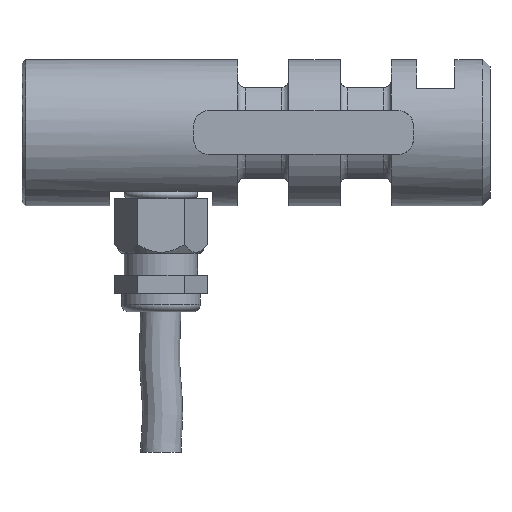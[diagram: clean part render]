
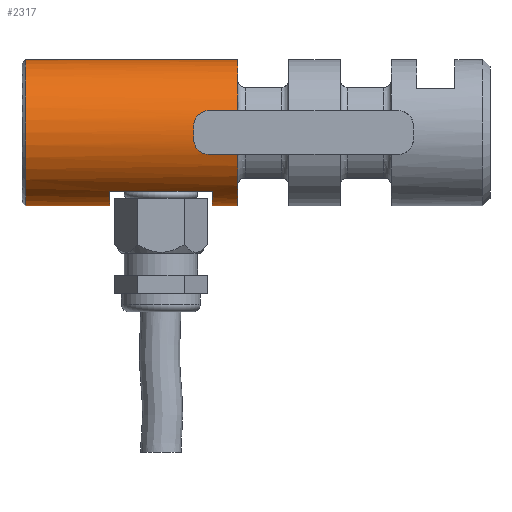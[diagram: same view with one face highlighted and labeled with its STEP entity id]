
A CAD part, top view. The second image highlights one B-rep face of the part: STEP entity #2317.
In plain terms, the highlighted cylindrical face has radius 10 mm (diameter 20 mm), a full revolution.
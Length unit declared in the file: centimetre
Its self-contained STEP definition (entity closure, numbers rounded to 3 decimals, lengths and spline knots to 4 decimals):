
#693=B_SPLINE_CURVE_WITH_KNOTS('',3,(#2664,#2665,#2666,#2667,#2668,#2669,
#2670,#2671,#2672,#2673,#2674,#2675,#2676,#2677),.UNSPECIFIED.,.F.,.U.,
(4,2,2,2,2,2,4),(0.5304,0.6061,0.6817,
0.7573,0.8339,0.9105,0.9858),
 .UNSPECIFIED.);
#694=B_SPLINE_CURVE_WITH_KNOTS('',3,(#2681,#2682,#2683,#2684,#2685,#2686,
#2687,#2688,#2689,#2690,#2691,#2692,#2693,#2694,#2695),.UNSPECIFIED.,.F.,
 .U.,(4,2,2,2,2,3,4),(-0.3798,-0.3044,-0.2278,
-0.1512,-0.0756,0.,0.0756),
 .UNSPECIFIED.);
#695=B_SPLINE_CURVE_WITH_KNOTS('',3,(#2703,#2704,#2705,#2706,#2707,#2708,
#2709,#2710,#2711,#2712,#2713,#2714,#2715,#2716),.UNSPECIFIED.,.F.,.U.,
(4,2,2,2,2,2,4),(0.5304,0.6061,0.6817,
0.7573,0.8339,0.9105,0.9858),
 .UNSPECIFIED.);
#696=B_SPLINE_CURVE_WITH_KNOTS('',3,(#2720,#2721,#2722,#2723,#2724,#2725,
#2726,#2727,#2728,#2729,#2730,#2731,#2732,#2733,#2734),.UNSPECIFIED.,.F.,
 .U.,(4,2,2,2,2,3,4),(-0.3798,-0.3044,-0.2278,
-0.1512,-0.0756,0.,0.0756),
 .UNSPECIFIED.);
#752=VECTOR('',#3943,1.);
#753=VECTOR('',#3946,1.);
#754=VECTOR('',#3949,1.);
#755=VECTOR('',#3952,1.);
#756=VECTOR('',#3953,1.);
#757=VECTOR('',#3956,1.);
#874=LINE('',#2661,#752);
#875=LINE('',#2697,#753);
#876=LINE('',#2701,#754);
#877=LINE('',#2736,#755);
#878=LINE('',#2738,#756);
#879=LINE('',#2743,#757);
#990=CYLINDRICAL_SURFACE('',#2427,1.);
#1033=VERTEX_POINT('',#2658);
#1035=VERTEX_POINT('',#2662);
#1036=VERTEX_POINT('',#2663);
#1037=VERTEX_POINT('',#2678);
#1038=VERTEX_POINT('',#2680);
#1039=VERTEX_POINT('',#2696);
#1040=VERTEX_POINT('',#2698);
#1041=VERTEX_POINT('',#2700);
#1042=VERTEX_POINT('',#2702);
#1043=VERTEX_POINT('',#2717);
#1044=VERTEX_POINT('',#2719);
#1045=VERTEX_POINT('',#2735);
#1046=VERTEX_POINT('',#2737);
#1047=VERTEX_POINT('',#2739);
#1048=VERTEX_POINT('',#2740);
#1049=VERTEX_POINT('',#2742);
#1050=VERTEX_POINT('',#2744);
#1206=CIRCLE('',#2435,1.);
#1208=CIRCLE('',#2437,1.);
#1209=CIRCLE('',#2438,1.);
#1210=CIRCLE('',#2439,1.);
#1211=CIRCLE('',#2440,1.);
#1212=CIRCLE('',#2441,1.);
#1268=EDGE_CURVE('',#1033,#1033,#1206,.T.);
#1270=EDGE_CURVE('',#1035,#1036,#874,.T.);
#1271=EDGE_CURVE('',#1036,#1037,#693,.T.);
#1272=EDGE_CURVE('',#1037,#1038,#1208,.T.);
#1273=EDGE_CURVE('',#1038,#1039,#694,.T.);
#1274=EDGE_CURVE('',#1039,#1040,#875,.T.);
#1275=EDGE_CURVE('',#1040,#1041,#1209,.T.);
#1276=EDGE_CURVE('',#1041,#1042,#876,.T.);
#1277=EDGE_CURVE('',#1042,#1043,#695,.T.);
#1278=EDGE_CURVE('',#1043,#1044,#1210,.T.);
#1279=EDGE_CURVE('',#1044,#1045,#696,.T.);
#1280=EDGE_CURVE('',#1045,#1046,#877,.T.);
#1281=EDGE_CURVE('',#1046,#1035,#1209,.T.);
#1282=EDGE_CURVE('',#1047,#1048,#878,.T.);
#1283=EDGE_CURVE('',#1048,#1049,#1211,.T.);
#1284=EDGE_CURVE('',#1049,#1050,#879,.T.);
#1285=EDGE_CURVE('',#1050,#1047,#1212,.T.);
#1536=ORIENTED_EDGE('',*,*,#1270,.T.);
#1537=ORIENTED_EDGE('',*,*,#1271,.T.);
#1538=ORIENTED_EDGE('',*,*,#1272,.T.);
#1539=ORIENTED_EDGE('',*,*,#1273,.T.);
#1540=ORIENTED_EDGE('',*,*,#1274,.T.);
#1541=ORIENTED_EDGE('',*,*,#1275,.T.);
#1542=ORIENTED_EDGE('',*,*,#1276,.T.);
#1543=ORIENTED_EDGE('',*,*,#1277,.T.);
#1544=ORIENTED_EDGE('',*,*,#1278,.T.);
#1545=ORIENTED_EDGE('',*,*,#1279,.T.);
#1546=ORIENTED_EDGE('',*,*,#1280,.T.);
#1547=ORIENTED_EDGE('',*,*,#1281,.T.);
#1548=ORIENTED_EDGE('',*,*,#1282,.T.);
#1549=ORIENTED_EDGE('',*,*,#1283,.T.);
#1550=ORIENTED_EDGE('',*,*,#1284,.T.);
#1551=ORIENTED_EDGE('',*,*,#1285,.T.);
#1552=ORIENTED_EDGE('',*,*,#1268,.F.);
#2050=EDGE_LOOP('',(#1536,#1537,#1538,#1539,#1540,#1541,#1542,#1543,#1544,
#1545,#1546,#1547));
#2051=EDGE_LOOP('',(#1548,#1549,#1550,#1551));
#2052=EDGE_LOOP('',(#1552));
#2185=FACE_BOUND('',#2050,.T.);
#2186=FACE_BOUND('',#2051,.T.);
#2187=FACE_BOUND('',#2052,.T.);
#2317=ADVANCED_FACE('',(#2185,#2186,#2187),#990,.T.);
#2427=AXIS2_PLACEMENT_3D('',#2569,#3918,#3919);
#2435=AXIS2_PLACEMENT_3D('',#2657,#3939,#3940);
#2437=AXIS2_PLACEMENT_3D('',#2679,#3944,#3945);
#2438=AXIS2_PLACEMENT_3D('',#2699,#3947,#3948);
#2439=AXIS2_PLACEMENT_3D('',#2718,#3950,#3951);
#2440=AXIS2_PLACEMENT_3D('',#2741,#3954,#3955);
#2441=AXIS2_PLACEMENT_3D('',#2745,#3957,#3958);
#2569=CARTESIAN_POINT('',(-2.6,0.,0.));
#2657=CARTESIAN_POINT('',(-2.55,0.,0.));
#2658=CARTESIAN_POINT('',(-2.55,0.,-1.));
#2661=CARTESIAN_POINT('',(0.15,0.3,-0.9539));
#2662=CARTESIAN_POINT('',(0.35,0.3,-0.9539));
#2663=CARTESIAN_POINT('',(-0.05,0.3,-0.9539));
#2664=CARTESIAN_POINT('',(0.0265,0.2848,-0.9586));
#2665=CARTESIAN_POINT('',(0.002,0.2949,-0.9556));
#2666=CARTESIAN_POINT('',(-0.0248,0.3,-0.9539));
#2667=CARTESIAN_POINT('',(-0.0752,0.3,-0.9539));
#2668=CARTESIAN_POINT('',(-0.102,0.2949,-0.9556));
#2669=CARTESIAN_POINT('',(-0.1511,0.2746,-0.9616));
#2670=CARTESIAN_POINT('',(-0.1734,0.2593,-0.966));
#2671=CARTESIAN_POINT('',(-0.2088,0.2241,-0.9747));
#2672=CARTESIAN_POINT('',(-0.2243,0.2017,-0.9798));
#2673=CARTESIAN_POINT('',(-0.2449,0.1523,-0.9886));
#2674=CARTESIAN_POINT('',(-0.25,0.1254,-0.9924));
#2675=CARTESIAN_POINT('',(-0.25,0.075,-0.9975));
#2676=CARTESIAN_POINT('',(-0.245,0.0483,-0.9991));
#2677=CARTESIAN_POINT('',(-0.2348,0.0236,-0.9997));
#2678=CARTESIAN_POINT('',(-0.25,0.1,-0.995));
#2679=CARTESIAN_POINT('',(-0.25,0.,0.));
#2680=CARTESIAN_POINT('',(-0.25,-0.1,-0.995));
#2681=CARTESIAN_POINT('',(-0.2348,-0.0236,-0.9997));
#2682=CARTESIAN_POINT('',(-0.245,-0.0483,-0.9991));
#2683=CARTESIAN_POINT('',(-0.25,-0.075,-0.9975));
#2684=CARTESIAN_POINT('',(-0.25,-0.1254,-0.9924));
#2685=CARTESIAN_POINT('',(-0.2449,-0.1523,-0.9886));
#2686=CARTESIAN_POINT('',(-0.2243,-0.2017,-0.9798));
#2687=CARTESIAN_POINT('',(-0.2088,-0.2241,-0.9747));
#2688=CARTESIAN_POINT('',(-0.1734,-0.2593,-0.966));
#2689=CARTESIAN_POINT('',(-0.1511,-0.2746,-0.9616));
#2690=CARTESIAN_POINT('',(-0.102,-0.2949,-0.9556));
#2691=CARTESIAN_POINT('',(-0.0752,-0.3,-0.9539));
#2692=CARTESIAN_POINT('',(-0.05,-0.3,-0.9539));
#2693=CARTESIAN_POINT('',(-0.0248,-0.3,-0.9539));
#2694=CARTESIAN_POINT('',(0.002,-0.2949,-0.9556));
#2695=CARTESIAN_POINT('',(0.0265,-0.2848,-0.9586));
#2696=CARTESIAN_POINT('',(-0.05,-0.3,-0.9539));
#2697=CARTESIAN_POINT('',(0.15,-0.3,-0.9539));
#2698=CARTESIAN_POINT('',(0.35,-0.3,-0.9539));
#2699=CARTESIAN_POINT('',(0.35,0.,0.));
#2700=CARTESIAN_POINT('',(0.35,-0.3,0.9539));
#2701=CARTESIAN_POINT('',(0.15,-0.3,0.9539));
#2702=CARTESIAN_POINT('',(-0.05,-0.3,0.9539));
#2703=CARTESIAN_POINT('',(0.0265,-0.2848,0.9586));
#2704=CARTESIAN_POINT('',(0.002,-0.2949,0.9556));
#2705=CARTESIAN_POINT('',(-0.0248,-0.3,0.9539));
#2706=CARTESIAN_POINT('',(-0.0752,-0.3,0.9539));
#2707=CARTESIAN_POINT('',(-0.102,-0.2949,0.9556));
#2708=CARTESIAN_POINT('',(-0.1511,-0.2746,0.9616));
#2709=CARTESIAN_POINT('',(-0.1734,-0.2593,0.966));
#2710=CARTESIAN_POINT('',(-0.2088,-0.2241,0.9747));
#2711=CARTESIAN_POINT('',(-0.2243,-0.2017,0.9798));
#2712=CARTESIAN_POINT('',(-0.2449,-0.1523,0.9886));
#2713=CARTESIAN_POINT('',(-0.25,-0.1254,0.9924));
#2714=CARTESIAN_POINT('',(-0.25,-0.075,0.9975));
#2715=CARTESIAN_POINT('',(-0.245,-0.0483,0.9991));
#2716=CARTESIAN_POINT('',(-0.2348,-0.0236,0.9997));
#2717=CARTESIAN_POINT('',(-0.25,-0.1,0.995));
#2718=CARTESIAN_POINT('',(-0.25,0.,0.));
#2719=CARTESIAN_POINT('',(-0.25,0.1,0.995));
#2720=CARTESIAN_POINT('',(-0.2348,0.0236,0.9997));
#2721=CARTESIAN_POINT('',(-0.245,0.0483,0.9991));
#2722=CARTESIAN_POINT('',(-0.25,0.075,0.9975));
#2723=CARTESIAN_POINT('',(-0.25,0.1254,0.9924));
#2724=CARTESIAN_POINT('',(-0.2449,0.1523,0.9886));
#2725=CARTESIAN_POINT('',(-0.2243,0.2017,0.9798));
#2726=CARTESIAN_POINT('',(-0.2088,0.2241,0.9747));
#2727=CARTESIAN_POINT('',(-0.1734,0.2593,0.966));
#2728=CARTESIAN_POINT('',(-0.1511,0.2746,0.9616));
#2729=CARTESIAN_POINT('',(-0.102,0.2949,0.9556));
#2730=CARTESIAN_POINT('',(-0.0752,0.3,0.9539));
#2731=CARTESIAN_POINT('',(-0.05,0.3,0.9539));
#2732=CARTESIAN_POINT('',(-0.0248,0.3,0.9539));
#2733=CARTESIAN_POINT('',(0.002,0.2949,0.9556));
#2734=CARTESIAN_POINT('',(0.0265,0.2848,0.9586));
#2735=CARTESIAN_POINT('',(-0.05,0.3,0.9539));
#2736=CARTESIAN_POINT('',(0.15,0.3,0.9539));
#2737=CARTESIAN_POINT('',(0.35,0.3,0.9539));
#2738=CARTESIAN_POINT('',(-0.7,-0.8,0.6));
#2739=CARTESIAN_POINT('',(-1.4,-0.8,0.6));
#2740=CARTESIAN_POINT('',(0.,-0.8,0.6));
#2741=CARTESIAN_POINT('',(0.,0.,0.));
#2742=CARTESIAN_POINT('',(0.,-0.8,-0.6));
#2743=CARTESIAN_POINT('',(-0.7,-0.8,-0.6));
#2744=CARTESIAN_POINT('',(-1.4,-0.8,-0.6));
#2745=CARTESIAN_POINT('',(-1.4,0.,0.));
#3918=DIRECTION('',(1.,0.,0.));
#3919=DIRECTION('',(0.,0.,-1.));
#3939=DIRECTION('',(-1.,0.,0.));
#3940=DIRECTION('',(0.,0.,1.));
#3943=DIRECTION('',(-1.,0.,0.));
#3944=DIRECTION('',(-1.,0.,0.));
#3945=DIRECTION('',(0.,0.,-1.));
#3946=DIRECTION('',(1.,0.,0.));
#3947=DIRECTION('',(-1.,0.,0.));
#3948=DIRECTION('',(0.,0.,-1.));
#3949=DIRECTION('',(-1.,0.,0.));
#3950=DIRECTION('',(-1.,0.,0.));
#3951=DIRECTION('',(0.,0.,-1.));
#3952=DIRECTION('',(1.,0.,0.));
#3953=DIRECTION('',(1.,0.,0.));
#3954=DIRECTION('',(1.,0.,0.));
#3955=DIRECTION('',(0.,0.,-1.));
#3956=DIRECTION('',(-1.,0.,0.));
#3957=DIRECTION('',(-1.,0.,0.));
#3958=DIRECTION('',(0.,0.,-1.));
